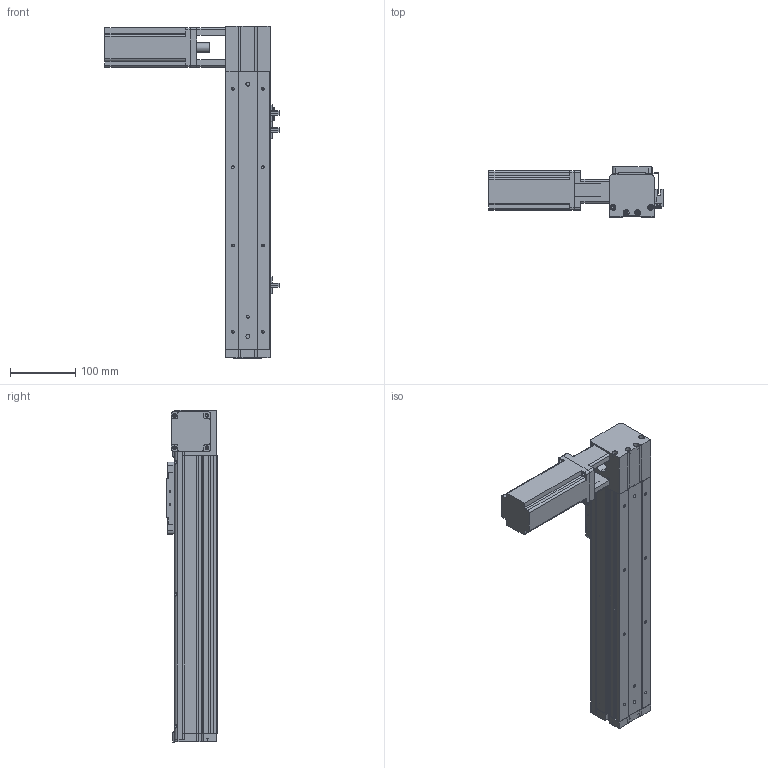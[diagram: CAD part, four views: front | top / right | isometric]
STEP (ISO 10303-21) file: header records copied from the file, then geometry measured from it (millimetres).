
FILE_DESCRIPTION (( 'STEP AP214' ), '1' );
FILE_NAME ('KSD68BS-S250-MLT-CR.STEP', '2019-11-08T05:13:11', ( '微软用户' ), ( '微软中国' ), 'SwSTEP 2.0', 'SolidWorks 2014', '' );
FILE_SCHEMA (( 'AUTOMOTIVE_DESIGN' ));
Length unit declared in the file: millimetre
Products named in the file (13): 68宽单导轨全封闭同步带端板; 68单导轨全封闭同步带电机座右; 68单导轨全封闭同步带安装板; 感应片68宽全封闭; U倰嫖萇EEㄜSX672; 台达ECMA－C20604AS伺服电机（400W); KSD68BS 250行程底板全封闭; KSD68BS-S250-MLT-CR; 100遵鎮湛假蚾啣1; KSD68BS 250行程盖板全封闭; 68遵裔啣揤啣1; 68宽单导轨全封闭丝杆传动安装板1防护罩; KSD68BS 250行程侧板全封闭
Assembly tree (16 placements, depth 2):
  KSD68BS-S250-MLT-CR
    KSD68BS 250行程底板全封闭
    台达ECMA－C20604AS伺服电机（400W)
    U倰嫖萇EEㄜSX672  x3
    感应片68宽全封闭
    68单导轨全封闭同步带安装板
    68单导轨全封闭同步带电机座右
    68宽单导轨全封闭同步带端板
    KSD68BS 250行程侧板全封闭  x2
    68宽单导轨全封闭丝杆传动安装板1防护罩
    68遵裔啣揤啣1  x2
    KSD68BS 250行程盖板全封闭
    100遵鎮湛假蚾啣1
Bounding box: 266.4 x 77 x 508.1 mm (x, y, z)
Volume: 1476602.2 mm3; surface area: 456204.7 mm2
Topology: 17 solids, 17 shells, 1288 faces, 3612 edges, 2321 vertices
Faces by surface type: plane 596, cylinder 564, cone 128
Entity records: 39271 total; most frequent: CARTESIAN_POINT 6529, DIRECTION 5908, ORIENTED_EDGE 5668, EDGE_CURVE 2834, AXIS2_PLACEMENT_3D 2090, VERTEX_POINT 1859, VECTOR 1728, LINE 1728
